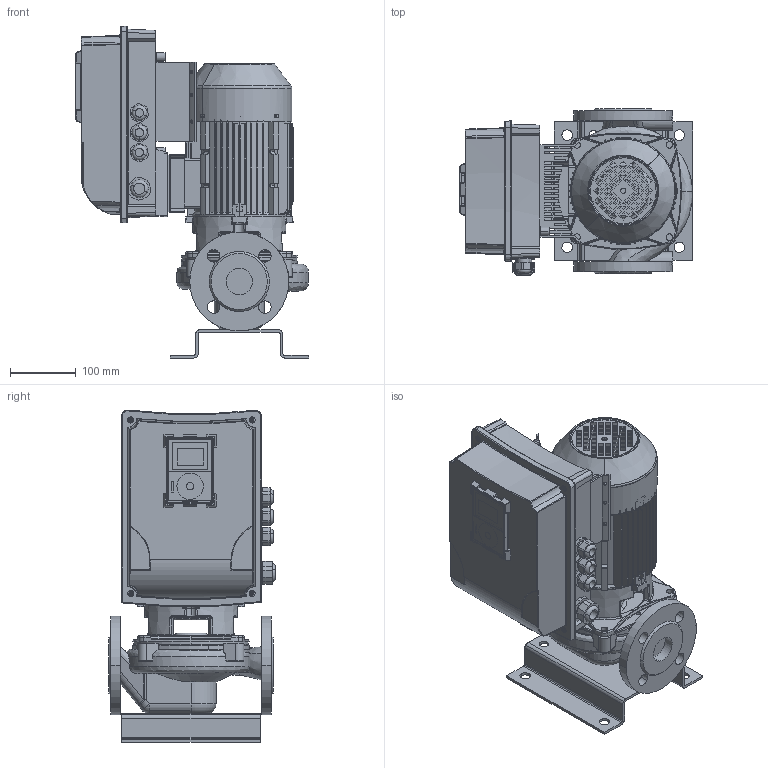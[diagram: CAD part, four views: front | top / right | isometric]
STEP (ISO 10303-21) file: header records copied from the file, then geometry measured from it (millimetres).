
FILE_DESCRIPTION(('STEP AP214'),'1');
FILE_NAME('export.stp','2018-06-04T07:47:54',(' '),(' '),'Spatial InterOp 3D',' ',' ');
FILE_SCHEMA(('AUTOMOTIVE_DESIGN { 1 0 10303 214 1 1 1 1 }'));
Length unit declared in the file: millimetre
Products named in the file (24): W_L40A2110_KPVS; V_TLAEAP3233L40A; V_PPL40A; 160029; 160001; V_MKP80-1-N13_VS; 480032; 480031___; 160133; Vacon_MS2; G43699; Vacon20CP_MS2; MS2_bottom_final; P101407; MS2_cover_final; Vacon_Display; CAD-3D-VACON-M100-Display.sldasm; Vacon_display_pla; Vacon_display_scr; DIN_966-M5x10; M20_tiivisteholkk; M25_tiivisteholkk; SOVITUSPALA; V_JALKA35973
Assembly tree (28 placements, depth 6):
  W_L40A2110_KPVS
    V_TLAEAP3233L40A
    V_PPL40A
    V_MKP80-1-N13_VS
      160029
        160001
      480032
        480031___
      160133
      Vacon_MS2
        G43699
        Vacon20CP_MS2
          MS2_bottom_final
          P101407
          MS2_cover_final
          Vacon_Display
            CAD-3D-VACON-M100-Display.sldasm
            Vacon_display_pla
            Vacon_display_scr
          DIN_966-M5x10  x4
          M20_tiivisteholkk  x3
          M25_tiivisteholkk
      SOVITUSPALA
    V_JALKA35973
Bounding box: 353.31 x 253.03 x 503.3 mm (x, y, z)
Volume: 4826432.5 mm3; surface area: 1661916.6 mm2
Topology: 21 solids, 1494 shells, 4580 faces, 16086 edges, 12957 vertices
Faces by surface type: bspline 1719, plane 1220, cylinder 941, torus 390, cone 255, sphere 55
Entity records: 219188 total; most frequent: CARTESIAN_POINT 91794, ORIENTED_EDGE 23264, EDGE_CURVE 15454, DIRECTION 14942, VERTEX_POINT 12639, B_SPLINE_CURVE_WITH_KNOTS 7704, AXIS2_PLACEMENT_3D 5733, EDGE_LOOP 4813
